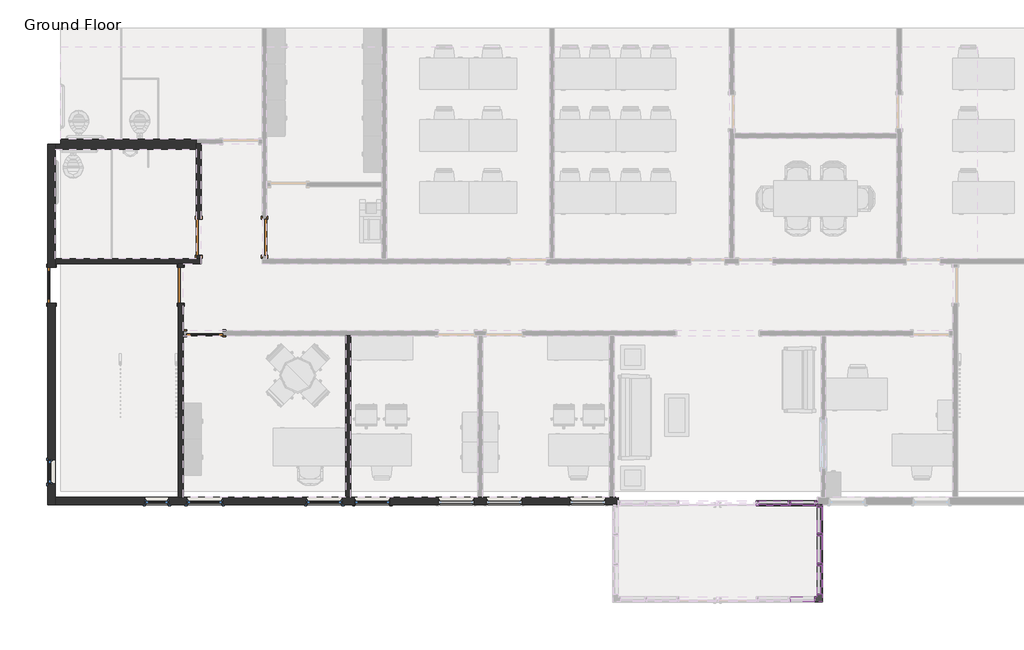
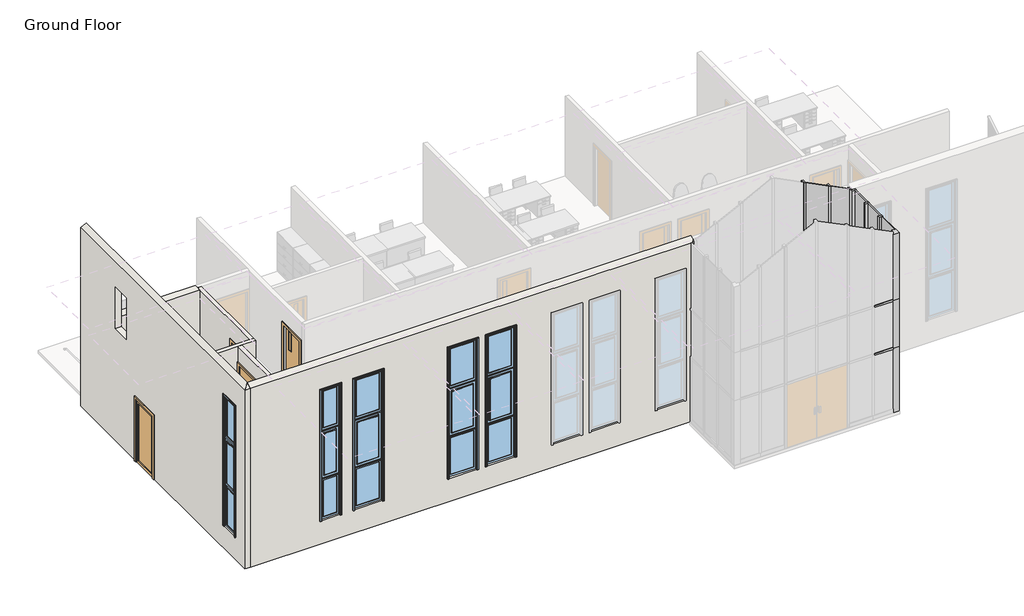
# One storey, part 2 of 5: 36 members, 15 plates, 7 walls, 5 doors, 5 windows.
"""IFC4 building model written with IfcOpenShell, lengths in millimetres."""

from ifc_helpers import new_model, si_unit, frame, origin, place, context, project, spatial, polyline, outline, extrude, faceted_brep, transform, mapped, element, save
from components import door_0f3f7c0c, door_8f6ecfa2, door_2a3d4b99, door_2264a989, door_30311ba1, member_5840e612, member_1de6f154, member_07888544, member_4f1c84db, member_2ee2964b, member_c7c5a8a0, member_a43dcf29, member_eba58f5c, member_efd07658, member_b4c2ac5f, member_301edf08, member_3fbb5cd5, member_73a57e35, member_249e519d, member_cd2e279d, member_1aadb8e3, member_1526e78e, member_869738d0, member_f8dc38bf, member_798d6cad, member_3a7f528f, member_10cd6abd, member_1bc8ff6f, member_892852e1, member_0208a0fb, system_panel_0d1f19e3, system_panel_731fbf32, system_panel_system_panel_82d31de2, system_panel_system_panel_aed4df24, system_panel_system_panel_0f80bde9, system_panel_system_panel_0a04209b, system_panel_system_panel_237256c1, system_panel_system_panel_f8c05b70, system_panel_system_panel_3b0a3080, system_panel_system_panel_e46ad46d, system_panel_system_panel_25a6b319, system_panel_system_panel_5840f3b9, system_panel_system_panel_c9e3cbe4, system_panel_system_panel_14be3267, system_panel_system_panel_e406a2c2, window_8adb934c, window_fc414b9c

model = new_model("IFC4")

# Units and contexts
model_context = context("Model", 3, world=origin())
ifc_project = project(units=[si_unit("LENGTHUNIT", "METRE", prefix="MILLI")], contexts=[model_context])

# Site, building, storey
site = spatial("IfcSite", under=ifc_project)
building = spatial("IfcBuilding", under=site)
storey = spatial("IfcBuildingStorey", under=building, Name="Ground Floor", Elevation=39624.0)

# Doors
placement = place(None, origin())
door_shape = door_0f3f7c0c(model_context)
element("IfcDoor", 1, ObjectType="Single-Flush : 36\" x 80\"", at=placement, inside=storey, context=model_context, shape_type="MappedRepresentation", body=[
    mapped(door_shape, transform((-21988.4917336, -9250.4394844, 39624.0), x_axis=(0.0, -1.0, 0.0), y_axis=(1.0, 0.0, 0.0), z_axis=(0.0, 0.0, 1.0))),
])
door_2_shape = door_8f6ecfa2(model_context)
element("IfcDoor", 2, ObjectType="Single-Flush Vision : 36\" x 80\"", at=placement, inside=storey, context=model_context, shape_type="MappedRepresentation", body=[
    mapped(door_2_shape, transform((-20312.0917336, -9250.4394844, 39624.0), x_axis=(0.0, -1.0, 0.0), y_axis=(1.0, 0.0, 0.0), z_axis=(0.0, 0.0, 1.0))),
])
door_3_shape = door_2a3d4b99(model_context)
element("IfcDoor", 3, ObjectType="Single-Flush Vision : 36\" x 84\"", at=placement, inside=storey, context=model_context, shape_type="MappedRepresentation", body=[
    mapped(door_3_shape, transform((-22445.6917336, -10469.6394844, 39624.0), x_axis=(0.0, 1.0, 0.0), y_axis=(-1.0, 0.0, 0.0), z_axis=(0.0, 0.0, 1.0))),
])
door_4_shape = door_2264a989(model_context)
element("IfcDoor", 4, ObjectType="Single-Glass 1 : 36\" x 84\"", at=placement, inside=storey, context=model_context, shape_type="MappedRepresentation", body=[
    mapped(door_4_shape, transform((-25736.5792336, -10469.6394844, 39624.0), x_axis=(0.0, 1.0, 0.0), y_axis=(-1.0, 0.0, 0.0), z_axis=(0.0, 0.0, 1.0))),
])
door_5_shape = door_30311ba1(model_context)
element("IfcDoor", 5, ObjectType="Single-Glass 1 : 36\" x 84\"", at=placement, inside=storey, context=model_context, shape_type="MappedRepresentation", body=[
    mapped(door_5_shape, transform((-21836.0917336, -11688.8394844, 39624.0), x_axis=(-1.0, 0.0, 0.0), y_axis=(0.0, -1.0, 0.0), z_axis=(0.0, 0.0, 1.0))),
])

# Members
member_shape = member_5840e612(model_context)
element("IfcMember", 6, ObjectType="L Corner Mullion : 5\" x 5\" Corner", at=placement, inside=storey, context=model_context, shape_type="MappedRepresentation", body=[
    mapped(member_shape, transform((-6181.7542336, -18456.3519844, 45720.0), x_axis=(1.0, 0.0, 0.0), y_axis=(0.0, 1.0, 0.0), z_axis=(0.0, 0.0, 1.0))),
])
member_2_shape = member_1de6f154(model_context)
element("IfcMember", 7, ObjectType="L Corner Mullion : 5\" x 5\" Corner", at=placement, inside=storey, context=model_context, shape_type="MappedRepresentation", body=[
    mapped(member_2_shape, transform((-6181.7542336, -18456.3519844, 41821.1), x_axis=(1.0, 0.0, 0.0), y_axis=(0.0, 1.0, 0.0), z_axis=(0.0, 0.0, 1.0))),
])
member_3_shape = member_07888544(model_context)
element("IfcMember", 8, ObjectType="L Corner Mullion : 5\" x 5\" Corner", at=placement, inside=storey, context=model_context, shape_type="MappedRepresentation", body=[
    mapped(member_3_shape, transform((-6181.7542336, -18456.3519844, 43459.4), x_axis=(1.0, 0.0, 0.0), y_axis=(0.0, 1.0, 0.0), z_axis=(0.0, 0.0, 1.0))),
])
member_4_shape = member_4f1c84db(model_context)
element("IfcMember", 9, ObjectType="Rectangular Mullion : 2.5\" x 5\" rectangular", at=placement, inside=storey, context=model_context, shape_type="MappedRepresentation", body=[
    mapped(member_4_shape, transform((-6181.7542336, -16811.7019844, 39751.0), x_axis=(0.0, -1.0, 0.0), y_axis=(-1.0, 0.0, 0.0), z_axis=(0.0, 0.0, -1.0))),
])
element("IfcMember", 10, ObjectType="Rectangular Mullion : 2.5\" x 5\" rectangular", at=placement, inside=storey, context=model_context, shape_type="MappedRepresentation", body=[
    mapped(member_4_shape, transform((-6181.7542336, -17573.7019844, 39751.0), x_axis=(0.0, -1.0, 0.0), y_axis=(-1.0, 0.0, 0.0), z_axis=(0.0, 0.0, -1.0))),
])
member_5_shape = member_2ee2964b(model_context)
element("IfcMember", 11, ObjectType="Rectangular Mullion : 2.5\" x 5\" rectangular", at=placement, inside=storey, context=model_context, shape_type="MappedRepresentation", body=[
    mapped(member_5_shape, transform((-6181.7542336, -16779.9519844, 41821.1), x_axis=(0.0, 0.0, 1.0), y_axis=(-1.0, 0.0, 0.0), z_axis=(0.0, -1.0, 0.0))),
])
element("IfcMember", 12, ObjectType="Rectangular Mullion : 2.5\" x 5\" rectangular", at=placement, inside=storey, context=model_context, shape_type="MappedRepresentation", body=[
    mapped(member_5_shape, transform((-6181.7542336, -16779.9519844, 43459.4), x_axis=(0.0, 0.0, 1.0), y_axis=(-1.0, 0.0, 0.0), z_axis=(0.0, -1.0, 0.0))),
])
member_6_shape = member_c7c5a8a0(model_context)
element("IfcMember", 13, ObjectType="Rectangular Mullion : 2.5\" x 5\" rectangular", at=placement, inside=storey, context=model_context, shape_type="MappedRepresentation", body=[
    mapped(member_6_shape, transform((-6181.7542336, -17541.9519844, 41821.1), x_axis=(0.0, 0.0, 1.0), y_axis=(-1.0, 0.0, 0.0), z_axis=(0.0, -1.0, 0.0))),
])
element("IfcMember", 14, ObjectType="Rectangular Mullion : 2.5\" x 5\" rectangular", at=placement, inside=storey, context=model_context, shape_type="MappedRepresentation", body=[
    mapped(member_6_shape, transform((-6181.7542336, -17541.9519844, 43459.4), x_axis=(0.0, 0.0, 1.0), y_axis=(-1.0, 0.0, 0.0), z_axis=(0.0, -1.0, 0.0))),
])
member_7_shape = member_a43dcf29(model_context)
element("IfcMember", 15, ObjectType="Rectangular Mullion : 2.5\" x 5\" rectangular", at=placement, inside=storey, context=model_context, shape_type="MappedRepresentation", body=[
    mapped(member_7_shape, transform((-6181.7542336, -18329.3519844, 41821.1), x_axis=(0.0, 0.0, 1.0), y_axis=(-1.0, 0.0, 0.0), z_axis=(0.0, -1.0, 0.0))),
])
element("IfcMember", 16, ObjectType="Rectangular Mullion : 2.5\" x 5\" rectangular", at=placement, inside=storey, context=model_context, shape_type="MappedRepresentation", body=[
    mapped(member_7_shape, transform((-6181.7542336, -18329.3519844, 43459.4), x_axis=(0.0, 0.0, 1.0), y_axis=(-1.0, 0.0, 0.0), z_axis=(0.0, -1.0, 0.0))),
])
member_8_shape = member_eba58f5c(model_context)
element("IfcMember", 17, ObjectType="Rectangular Mullion : 2.5\" x 5\" rectangular", at=placement, inside=storey, context=model_context, shape_type="MappedRepresentation", body=[
    mapped(member_8_shape, transform((-6181.7542336, -16811.7019844, 41821.1), x_axis=(0.0, -1.0, 0.0), y_axis=(-1.0, 0.0, 0.0), z_axis=(0.0, 0.0, -1.0))),
])
element("IfcMember", 18, ObjectType="Rectangular Mullion : 2.5\" x 5\" rectangular", at=placement, inside=storey, context=model_context, shape_type="MappedRepresentation", body=[
    mapped(member_8_shape, transform((-6181.7542336, -17573.7019844, 41821.1), x_axis=(0.0, -1.0, 0.0), y_axis=(-1.0, 0.0, 0.0), z_axis=(0.0, 0.0, -1.0))),
])
member_9_shape = member_efd07658(model_context)
element("IfcMember", 19, ObjectType="Rectangular Mullion : 2.5\" x 5\" rectangular", at=placement, inside=storey, context=model_context, shape_type="MappedRepresentation", body=[
    mapped(member_9_shape, transform((-6181.7542336, -16811.7019844, 43459.4), x_axis=(0.0, -1.0, 0.0), y_axis=(-1.0, 0.0, 0.0), z_axis=(0.0, 0.0, -1.0))),
])
element("IfcMember", 20, ObjectType="Rectangular Mullion : 2.5\" x 5\" rectangular", at=placement, inside=storey, context=model_context, shape_type="MappedRepresentation", body=[
    mapped(member_9_shape, transform((-6181.7542336, -17573.7019844, 43459.4), x_axis=(0.0, -1.0, 0.0), y_axis=(-1.0, 0.0, 0.0), z_axis=(0.0, 0.0, -1.0))),
])
member_10_shape = member_b4c2ac5f(model_context)
element("IfcMember", 21, ObjectType="Rectangular Mullion : 2.5\" x 5\" rectangular", at=placement, inside=storey, context=model_context, shape_type="MappedRepresentation", body=[
    mapped(member_10_shape, transform((-6956.4542336, -16017.9519844, 43453.05), x_axis=(-1.0, 0.0, 0.0), y_axis=(0.0, 1.0, 0.0), z_axis=(0.0, 0.0, -1.0))),
])
member_11_shape = member_301edf08(model_context)
element("IfcMember", 22, ObjectType="Rectangular Mullion : 2.5\" x 5\" rectangular", at=placement, inside=storey, context=model_context, shape_type="MappedRepresentation", body=[
    mapped(member_11_shape, transform((-7769.2542336, -16017.9519844, 43453.05), x_axis=(-1.0, 0.0, 0.0), y_axis=(0.0, 1.0, 0.0), z_axis=(0.0, 0.0, -1.0))),
])
member_12_shape = member_3fbb5cd5(model_context)
element("IfcMember", 23, ObjectType="Rectangular Mullion : 2.5\" x 5\" rectangular", at=placement, inside=storey, context=model_context, shape_type="MappedRepresentation", body=[
    mapped(member_12_shape, transform((-6245.2542336, -16017.9519844, 45751.75), x_axis=(1.0, 0.0, 0.0), y_axis=(0.0, 1.0, 0.0), z_axis=(0.0, 0.0, 1.0))),
])
member_13_shape = member_73a57e35(model_context)
element("IfcMember", 24, ObjectType="Rectangular Mullion : 2.5\" x 5\" rectangular", at=placement, inside=storey, context=model_context, shape_type="MappedRepresentation", body=[
    mapped(member_13_shape, transform((-6245.2542336, -16017.9519844, 41821.1), x_axis=(1.0, 0.0, 0.0), y_axis=(0.0, 1.0, 0.0), z_axis=(0.0, 0.0, 1.0))),
])
element("IfcMember", 25, ObjectType="Rectangular Mullion : 2.5\" x 5\" rectangular", at=placement, inside=storey, context=model_context, shape_type="MappedRepresentation", body=[
    mapped(member_13_shape, transform((-6181.7542336, -16049.7019844, 41821.1), x_axis=(0.0, 1.0, 0.0), y_axis=(-1.0, 0.0, 0.0), z_axis=(0.0, 0.0, 1.0))),
])
member_14_shape = member_249e519d(model_context)
element("IfcMember", 26, ObjectType="Rectangular Mullion : 2.5\" x 5\" rectangular", at=placement, inside=storey, context=model_context, shape_type="MappedRepresentation", body=[
    mapped(member_14_shape, transform((-6245.2542336, -16017.9519844, 43453.05), x_axis=(1.0, 0.0, 0.0), y_axis=(0.0, 1.0, 0.0), z_axis=(0.0, 0.0, 1.0))),
])
member_15_shape = member_cd2e279d(model_context)
element("IfcMember", 27, ObjectType="Rectangular Mullion : 2.5\" x 5\" rectangular", at=placement, inside=storey, context=model_context, shape_type="MappedRepresentation", body=[
    mapped(member_15_shape, transform((-6181.7542336, -16049.7019844, 45720.0), x_axis=(0.0, 1.0, 0.0), y_axis=(-1.0, 0.0, 0.0), z_axis=(0.0, 0.0, 1.0))),
])
member_16_shape = member_1aadb8e3(model_context)
element("IfcMember", 28, ObjectType="Rectangular Mullion : 2.5\" x 5\" rectangular", at=placement, inside=storey, context=model_context, shape_type="MappedRepresentation", body=[
    mapped(member_16_shape, transform((-6181.7542336, -16049.7019844, 43459.4), x_axis=(0.0, 1.0, 0.0), y_axis=(-1.0, 0.0, 0.0), z_axis=(0.0, 0.0, 1.0))),
])
member_17_shape = member_1526e78e(model_context)
element("IfcMember", 29, ObjectType="Rectangular Mullion : 2.5\" x 5\" rectangular", at=placement, inside=storey, context=model_context, shape_type="MappedRepresentation", body=[
    mapped(member_17_shape, transform((-7769.2542336, -16017.9519844, 39624.0), x_axis=(-1.0, 0.0, 0.0), y_axis=(0.0, 1.0, 0.0), z_axis=(0.0, 0.0, -1.0))),
])
element("IfcMember", 30, ObjectType="Rectangular Mullion : 2.5\" x 5\" rectangular", at=placement, inside=storey, context=model_context, shape_type="MappedRepresentation", body=[
    mapped(member_17_shape, transform((-6956.4542336, -16017.9519844, 39624.0), x_axis=(-1.0, 0.0, 0.0), y_axis=(0.0, 1.0, 0.0), z_axis=(0.0, 0.0, -1.0))),
])
member_18_shape = member_869738d0(model_context)
element("IfcMember", 31, ObjectType="Rectangular Mullion : 2.5\" x 5\" rectangular", at=placement, inside=storey, context=model_context, shape_type="MappedRepresentation", body=[
    mapped(member_18_shape, transform((-7769.2542336, -16017.9519844, 41821.1), x_axis=(-1.0, 0.0, 0.0), y_axis=(0.0, 1.0, 0.0), z_axis=(0.0, 0.0, -1.0))),
])
element("IfcMember", 32, ObjectType="Rectangular Mullion : 2.5\" x 5\" rectangular", at=placement, inside=storey, context=model_context, shape_type="MappedRepresentation", body=[
    mapped(member_18_shape, transform((-6956.4542336, -16017.9519844, 41821.1), x_axis=(-1.0, 0.0, 0.0), y_axis=(0.0, 1.0, 0.0), z_axis=(0.0, 0.0, -1.0))),
])
member_19_shape = member_f8dc38bf(model_context)
element("IfcMember", 33, ObjectType="Rectangular Mullion : 2.5\" x 5\" rectangular", at=placement, inside=storey, context=model_context, shape_type="MappedRepresentation", body=[
    mapped(member_19_shape, transform((-6924.7042336, -16017.9519844, 41821.1), x_axis=(0.0, 0.0, 1.0), y_axis=(0.0, 1.0, 0.0), z_axis=(-1.0, 0.0, 0.0))),
])
element("IfcMember", 34, ObjectType="Rectangular Mullion : 2.5\" x 5\" rectangular", at=placement, inside=storey, context=model_context, shape_type="MappedRepresentation", body=[
    mapped(member_19_shape, transform((-6924.7042336, -18456.3519844, 41821.1), x_axis=(0.0, 0.0, 1.0), y_axis=(0.0, 1.0, 0.0), z_axis=(-1.0, 0.0, 0.0))),
])
element("IfcMember", 35, ObjectType="Rectangular Mullion : 2.5\" x 5\" rectangular", at=placement, inside=storey, context=model_context, shape_type="MappedRepresentation", body=[
    mapped(member_19_shape, transform((-6924.7042336, -18456.3519844, 43459.4), x_axis=(0.0, 0.0, 1.0), y_axis=(0.0, 1.0, 0.0), z_axis=(-1.0, 0.0, 0.0))),
])
member_20_shape = member_798d6cad(model_context)
element("IfcMember", 36, ObjectType="Rectangular Mullion : 2.5\" x 5\" rectangular", at=placement, inside=storey, context=model_context, shape_type="MappedRepresentation", body=[
    mapped(member_20_shape, transform((-7737.5042336, -16017.9519844, 41821.1), x_axis=(0.0, 0.0, 1.0), y_axis=(0.0, 1.0, 0.0), z_axis=(-1.0, 0.0, 0.0))),
])
member_21_shape = member_3a7f528f(model_context)
element("IfcMember", 37, ObjectType="Rectangular Mullion : 5\" x 5\" Rectangular", at=placement, inside=storey, context=model_context, shape_type="MappedRepresentation", body=[
    mapped(member_21_shape, transform((-6988.2042336, -16017.9519844, 39624.0), x_axis=(0.0, 0.0, -1.0), y_axis=(0.0, 1.0, 0.0), z_axis=(1.0, 0.0, 0.0))),
])
member_22_shape = member_10cd6abd(model_context)
element("IfcMember", 38, ObjectType="Rectangular Mullion : 5\" x 5\" Rectangular", at=placement, inside=storey, context=model_context, shape_type="MappedRepresentation", body=[
    mapped(member_22_shape, transform((-6308.7542336, -16017.9519844, 39624.0), x_axis=(0.0, 0.0, -1.0), y_axis=(0.0, 1.0, 0.0), z_axis=(1.0, 0.0, 0.0))),
])
member_23_shape = member_1bc8ff6f(model_context)
element("IfcMember", 39, ObjectType="Rectangular Mullion : 5\" x 5\" Rectangular", at=placement, inside=storey, context=model_context, shape_type="MappedRepresentation", body=[
    mapped(member_23_shape, transform((-6181.7542336, -16113.2019844, 39624.0), x_axis=(0.0, 0.0, -1.0), y_axis=(-1.0, 0.0, 0.0), z_axis=(0.0, 1.0, 0.0))),
])
member_24_shape = member_892852e1(model_context)
element("IfcMember", 40, ObjectType="Rectangular Mullion : 5\" x 5\" Rectangular", at=placement, inside=storey, context=model_context, shape_type="MappedRepresentation", body=[
    mapped(member_24_shape, transform((-6181.7542336, -16811.7019844, 39624.0), x_axis=(0.0, 0.0, -1.0), y_axis=(-1.0, 0.0, 0.0), z_axis=(0.0, 1.0, 0.0))),
])
member_25_shape = member_0208a0fb(model_context)
element("IfcMember", 41, ObjectType="Rectangular Mullion : 5\" x 5\" Rectangular", at=placement, inside=storey, context=model_context, shape_type="MappedRepresentation", body=[
    mapped(member_25_shape, transform((-6181.7542336, -17573.7019844, 39624.0), x_axis=(0.0, 0.0, -1.0), y_axis=(-1.0, 0.0, 0.0), z_axis=(0.0, 1.0, 0.0))),
])

# Plates
system_panel_shape = system_panel_0d1f19e3(model_context)
element("IfcPlate", 42, ObjectType="System Panel : Spandral Panel", at=placement, inside=storey, context=model_context, shape_type="MappedRepresentation", body=[
    mapped(system_panel_shape, transform((-6616.7292336, -16017.9519844, 41852.85), x_axis=(-1.0, 0.0, 0.0), y_axis=(0.0, -1.0, 0.0), z_axis=(0.0, 0.0, 1.0))),
])
system_panel_2_shape = system_panel_731fbf32(model_context)
element("IfcPlate", 43, ObjectType="System Panel : Spandral Panel", at=placement, inside=storey, context=model_context, shape_type="MappedRepresentation", body=[
    mapped(system_panel_2_shape, transform((-7362.8542336, -16017.9519844, 41852.85), x_axis=(-1.0, 0.0, 0.0), y_axis=(0.0, -1.0, 0.0), z_axis=(0.0, 0.0, 1.0))),
])
system_panel_system_panel_shape = system_panel_system_panel_82d31de2(model_context)
element("IfcPlate", 44, ObjectType="System Panel : System Panel", at=placement, inside=storey, context=model_context, shape_type="MappedRepresentation", body=[
    mapped(system_panel_system_panel_shape, transform((-6181.7542336, -16446.5769844, 39751.0), x_axis=(0.0, -1.0, 0.0), y_axis=(1.0, 0.0, 0.0), z_axis=(0.0, 0.0, 1.0))),
])
system_panel_system_panel_2_shape = system_panel_system_panel_aed4df24(model_context)
element("IfcPlate", 45, ObjectType="System Panel : System Panel", at=placement, inside=storey, context=model_context, shape_type="MappedRepresentation", body=[
    mapped(system_panel_system_panel_2_shape, transform((-6181.7542336, -17192.7019844, 39751.0), x_axis=(0.0, -1.0, 0.0), y_axis=(1.0, 0.0, 0.0), z_axis=(0.0, 0.0, 1.0))),
])
system_panel_system_panel_3_shape = system_panel_system_panel_0f80bde9(model_context)
element("IfcPlate", 46, ObjectType="System Panel : System Panel", at=placement, inside=storey, context=model_context, shape_type="MappedRepresentation", body=[
    mapped(system_panel_system_panel_3_shape, transform((-6181.7542336, -17967.4019844, 39751.0), x_axis=(0.0, -1.0, 0.0), y_axis=(1.0, 0.0, 0.0), z_axis=(0.0, 0.0, 1.0))),
])
system_panel_system_panel_4_shape = system_panel_system_panel_0a04209b(model_context)
element("IfcPlate", 47, ObjectType="System Panel : System Panel", at=placement, inside=storey, context=model_context, shape_type="MappedRepresentation", body=[
    mapped(system_panel_system_panel_4_shape, transform((-6181.7542336, -16446.5769844, 41852.85), x_axis=(0.0, -1.0, 0.0), y_axis=(1.0, 0.0, 0.0), z_axis=(0.0, 0.0, 1.0))),
])
system_panel_system_panel_5_shape = system_panel_system_panel_237256c1(model_context)
element("IfcPlate", 48, ObjectType="System Panel : System Panel", at=placement, inside=storey, context=model_context, shape_type="MappedRepresentation", body=[
    mapped(system_panel_system_panel_5_shape, transform((-6181.7542336, -16446.5769844, 43491.15), x_axis=(0.0, -1.0, 0.0), y_axis=(1.0, 0.0, 0.0), z_axis=(0.0, 0.0, 1.0))),
])
system_panel_system_panel_6_shape = system_panel_system_panel_f8c05b70(model_context)
element("IfcPlate", 49, ObjectType="System Panel : System Panel", at=placement, inside=storey, context=model_context, shape_type="MappedRepresentation", body=[
    mapped(system_panel_system_panel_6_shape, transform((-6181.7542336, -17192.7019844, 41852.85), x_axis=(0.0, -1.0, 0.0), y_axis=(1.0, 0.0, 0.0), z_axis=(0.0, 0.0, 1.0))),
])
system_panel_system_panel_7_shape = system_panel_system_panel_3b0a3080(model_context)
element("IfcPlate", 50, ObjectType="System Panel : System Panel", at=placement, inside=storey, context=model_context, shape_type="MappedRepresentation", body=[
    mapped(system_panel_system_panel_7_shape, transform((-6181.7542336, -17192.7019844, 43491.15), x_axis=(0.0, -1.0, 0.0), y_axis=(1.0, 0.0, 0.0), z_axis=(0.0, 0.0, 1.0))),
])
system_panel_system_panel_8_shape = system_panel_system_panel_e46ad46d(model_context)
element("IfcPlate", 51, ObjectType="System Panel : System Panel", at=placement, inside=storey, context=model_context, shape_type="MappedRepresentation", body=[
    mapped(system_panel_system_panel_8_shape, transform((-6181.7542336, -17967.4019844, 41852.85), x_axis=(0.0, -1.0, 0.0), y_axis=(1.0, 0.0, 0.0), z_axis=(0.0, 0.0, 1.0))),
])
system_panel_system_panel_9_shape = system_panel_system_panel_25a6b319(model_context)
element("IfcPlate", 52, ObjectType="System Panel : System Panel", at=placement, inside=storey, context=model_context, shape_type="MappedRepresentation", body=[
    mapped(system_panel_system_panel_9_shape, transform((-6181.7542336, -17967.4019844, 43491.15), x_axis=(0.0, -1.0, 0.0), y_axis=(1.0, 0.0, 0.0), z_axis=(0.0, 0.0, 1.0))),
])
system_panel_system_panel_10_shape = system_panel_system_panel_5840f3b9(model_context)
element("IfcPlate", 53, ObjectType="System Panel : System Panel", at=placement, inside=storey, context=model_context, shape_type="MappedRepresentation", body=[
    mapped(system_panel_system_panel_10_shape, transform((-7346.9792336, -16017.9519844, 43453.05), x_axis=(-1.0, 0.0, 0.0), y_axis=(0.0, -1.0, 0.0), z_axis=(0.0, 0.0, 1.0))),
])
system_panel_system_panel_11_shape = system_panel_system_panel_c9e3cbe4(model_context)
element("IfcPlate", 54, ObjectType="System Panel : System Panel", at=placement, inside=storey, context=model_context, shape_type="MappedRepresentation", body=[
    mapped(system_panel_system_panel_11_shape, transform((-6616.7292336, -16017.9519844, 43453.05), x_axis=(-1.0, 0.0, 0.0), y_axis=(0.0, -1.0, 0.0), z_axis=(0.0, 0.0, 1.0))),
])
system_panel_system_panel_12_shape = system_panel_system_panel_14be3267(model_context)
element("IfcPlate", 55, ObjectType="System Panel : System Panel", at=placement, inside=storey, context=model_context, shape_type="MappedRepresentation", body=[
    mapped(system_panel_system_panel_12_shape, transform((-6616.7292336, -16017.9519844, 39751.0), x_axis=(-1.0, 0.0, 0.0), y_axis=(0.0, -1.0, 0.0), z_axis=(0.0, 0.0, 1.0))),
])
system_panel_system_panel_13_shape = system_panel_system_panel_e406a2c2(model_context)
element("IfcPlate", 56, ObjectType="System Panel : System Panel", at=placement, inside=storey, context=model_context, shape_type="MappedRepresentation", body=[
    mapped(system_panel_system_panel_13_shape, transform((-7362.8542336, -16017.9519844, 39751.0), x_axis=(-1.0, 0.0, 0.0), y_axis=(0.0, -1.0, 0.0), z_axis=(0.0, 0.0, 1.0))),
])

# Walls
element("IfcWall", 57, ObjectType="Exterior - Siding", at=placement, inside=storey, context=model_context, shape_type="Brep", body=[
    faceted_brep([(-25642.9167336, -16049.7019844, 45720.0), (-25642.9167336, -16049.7019844, 39624.0), (-25642.9167336, -15862.3769844, 39624.0), (-25642.9167336, -10926.8394844, 39624.0), (-25642.9167336, -10926.8394844, 41757.6), (-25642.9167336, -10012.4394844, 41757.6), (-25642.9167336, -10012.4394844, 39624.0), (-25642.9167336, -9921.9519844, 39624.0), (-25642.9167336, -9798.1269844, 39624.0), (-25642.9167336, -7007.3019844, 39624.0), (-25642.9167336, -6877.1269844, 39624.0), (-25642.9167336, -6877.1269844, 42348.15), (-25642.9167336, -7007.3019844, 42348.15), (-25642.9167336, -9798.1269844, 42348.15), (-25642.9167336, -9921.9519844, 42348.15), (-25642.9167336, -12204.7769844, 42348.15), (-25642.9167336, -12204.7769844, 42672.0), (-25642.9167336, -9921.9519844, 42672.0), (-25642.9167336, -9798.1269844, 42672.0), (-25642.9167336, -7007.3019844, 42672.0), (-25642.9167336, -6877.1269844, 42672.0), (-25642.9167336, -6877.1269844, 45813.6625), (-25642.9167336, -15862.3769844, 45813.6625), (-25642.9167336, -14911.4644844, 44869.1), (-25642.9167336, -14911.4644844, 40405.05), (-25642.9167336, -15521.0644844, 40405.05), (-25642.9167336, -15521.0644844, 44869.1), (-25642.9167336, -8815.4644844, 44869.1), (-25642.9167336, -8815.4644844, 43453.05), (-25642.9167336, -9425.0644844, 43453.05), (-25642.9167336, -9425.0644844, 44869.1), (-25830.2417336, -16049.7019844, 45720.0), (-25830.2417336, -6877.1269844, 45720.0), (-25830.2417336, -6877.1269844, 42672.0), (-25830.2417336, -6877.1269844, 39624.0), (-25830.2417336, -10012.4394844, 39624.0), (-25830.2417336, -10012.4394844, 41757.6), (-25830.2417336, -10926.8394844, 41757.6), (-25830.2417336, -10926.8394844, 39624.0), (-25830.2417336, -16049.7019844, 39624.0), (-25830.2417336, -14911.4644844, 40405.05), (-25830.2417336, -14911.4644844, 44869.1), (-25830.2417336, -15521.0644844, 44869.1), (-25830.2417336, -15521.0644844, 40405.05), (-25830.2417336, -8815.4644844, 43453.05), (-25830.2417336, -8815.4644844, 44869.1), (-25830.2417336, -9425.0644844, 44869.1), (-25830.2417336, -9425.0644844, 43453.05), (-25798.4917336, -6877.1269844, 42672.0), (-25798.4917336, -6877.1269844, 42348.15), (-25798.4917336, -12204.7769844, 42348.15), (-25798.4917336, -12204.7769844, 42672.0)], [[[0, 1, 2, 3, 4, 5, 6, 7, 8, 9, 10, 11, 12, 13, 14, 15, 16, 17, 18, 19, 20, 21, 22], [23, 24, 25, 26], [27, 28, 29, 30]], [[31, 32, 33, 34, 35, 36, 37, 38, 39], [40, 41, 42, 43], [44, 45, 46, 47]], [[34, 10, 9, 8, 7, 6, 35]], [[1, 39, 38, 3, 2]], [[1, 0, 31, 39]], [[10, 34, 33, 32, 21, 20, 48, 49, 11]], [[31, 0, 22]], [[32, 31, 22, 21]], [[24, 23, 41, 40]], [[25, 24, 40, 43]], [[26, 25, 43, 42]], [[23, 26, 42, 41]], [[36, 35, 6, 5]], [[37, 36, 5, 4]], [[38, 37, 4, 3]], [[28, 27, 45, 44]], [[29, 28, 44, 47]], [[30, 29, 47, 46]], [[27, 30, 46, 45]], [[49, 50, 15, 14, 13, 12, 11]], [[51, 48, 20, 19, 18, 17, 16]], [[50, 51, 16, 15]], [[50, 49, 48, 51]]]),
])
element("IfcWall", 58, ObjectType="Exterior - Siding", at=placement, inside=storey, context=model_context, shape_type="Brep", body=[
    faceted_brep([(-11315.7292336, -15862.3769844, 39624.0), (-11410.9792336, -15862.3769844, 39624.0), (-11534.8042336, -15862.3769844, 39624.0), (-14763.7792336, -15862.3769844, 39624.0), (-14887.6042336, -15862.3769844, 39624.0), (-18116.5792336, -15862.3769844, 39624.0), (-18240.4042336, -15862.3769844, 39624.0), (-22383.7792336, -15862.3769844, 39624.0), (-22507.6042336, -15862.3769844, 39624.0), (-25642.9167336, -15862.3769844, 39624.0), (-25642.9167336, -15862.3769844, 45813.6625), (-11315.7292336, -15862.3769844, 45813.6625), (-11315.7292336, -15862.3769844, 42672.0), (-11410.9792336, -15862.3769844, 42672.0), (-11534.8042336, -15862.3769844, 42672.0), (-11625.2917336, -15862.3769844, 42672.0), (-11625.2917336, -15862.3769844, 44869.1), (-12539.6917336, -15862.3769844, 44869.1), (-12539.6917336, -15862.3769844, 42672.0), (-13758.8917336, -15862.3769844, 42672.0), (-13758.8917336, -15862.3769844, 44869.1), (-14673.2917336, -15862.3769844, 44869.1), (-14673.2917336, -15862.3769844, 42672.0), (-14695.5167336, -15862.3769844, 42672.0), (-14955.8667336, -15862.3769844, 42672.0), (-14978.0917336, -15862.3769844, 42672.0), (-14978.0917336, -15862.3769844, 44869.1), (-15892.4917336, -15862.3769844, 44869.1), (-15892.4917336, -15862.3769844, 42672.0), (-17111.6917336, -15862.3769844, 42672.0), (-17111.6917336, -15862.3769844, 44869.1), (-18026.0917336, -15862.3769844, 44869.1), (-18026.0917336, -15862.3769844, 42672.0), (-18330.8917336, -15862.3769844, 42672.0), (-18330.8917336, -15862.3769844, 44869.1), (-19245.2917336, -15862.3769844, 44869.1), (-19245.2917336, -15862.3769844, 42672.0), (-21378.8917336, -15862.3769844, 42672.0), (-21378.8917336, -15862.3769844, 44869.1), (-22293.2917336, -15862.3769844, 44869.1), (-22293.2917336, -15862.3769844, 42672.0), (-22383.7792336, -15862.3769844, 42672.0), (-22507.6042336, -15862.3769844, 42672.0), (-22507.6042336, -15862.3769844, 42348.15), (-22383.7792336, -15862.3769844, 42348.15), (-22293.2917336, -15862.3769844, 42348.15), (-22293.2917336, -15862.3769844, 40405.05), (-21378.8917336, -15862.3769844, 40405.05), (-21378.8917336, -15862.3769844, 42348.15), (-19245.2917336, -15862.3769844, 42348.15), (-19245.2917336, -15862.3769844, 40405.05), (-18330.8917336, -15862.3769844, 40405.05), (-18330.8917336, -15862.3769844, 42348.15), (-18240.4042336, -15862.3769844, 42348.15), (-18116.5792336, -15862.3769844, 42348.15), (-18026.0917336, -15862.3769844, 42348.15), (-18026.0917336, -15862.3769844, 40405.05), (-17111.6917336, -15862.3769844, 40405.05), (-17111.6917336, -15862.3769844, 42348.15), (-15892.4917336, -15862.3769844, 42348.15), (-15892.4917336, -15862.3769844, 40405.05), (-14978.0917336, -15862.3769844, 40405.05), (-14978.0917336, -15862.3769844, 42348.15), (-14887.6042336, -15862.3769844, 42348.15), (-14763.7792336, -15862.3769844, 42348.15), (-14673.2917336, -15862.3769844, 42348.15), (-14673.2917336, -15862.3769844, 40405.05), (-13758.8917336, -15862.3769844, 40405.05), (-13758.8917336, -15862.3769844, 42348.15), (-12539.6917336, -15862.3769844, 42348.15), (-12539.6917336, -15862.3769844, 40405.05), (-11625.2917336, -15862.3769844, 40405.05), (-11625.2917336, -15862.3769844, 42348.15), (-11534.8042336, -15862.3769844, 42348.15), (-11410.9792336, -15862.3769844, 42348.15), (-11315.7292336, -15862.3769844, 42348.15), (-23360.0917336, -15862.3769844, 44869.1), (-23360.0917336, -15862.3769844, 40405.05), (-22750.4917336, -15862.3769844, 40405.05), (-22750.4917336, -15862.3769844, 44869.1), (-25642.9167336, -16049.7019844, 39624.0), (-11315.7292336, -16049.7019844, 39624.0), (-11315.7292336, -16049.7019844, 45751.75), (-11379.2292336, -16049.7019844, 45720.0), (-25642.9167336, -16049.7019844, 45720.0), (-23360.0917336, -16049.7019844, 40405.05), (-23360.0917336, -16049.7019844, 44869.1), (-22750.4917336, -16049.7019844, 44869.1), (-22750.4917336, -16049.7019844, 40405.05), (-22293.2917336, -16049.7019844, 40405.05), (-22293.2917336, -16049.7019844, 44869.1), (-21378.8917336, -16049.7019844, 44869.1), (-21378.8917336, -16049.7019844, 40405.05), (-19245.2917336, -16049.7019844, 40405.05), (-19245.2917336, -16049.7019844, 44869.1), (-18330.8917336, -16049.7019844, 44869.1), (-18330.8917336, -16049.7019844, 40405.05), (-15892.4917336, -16049.7019844, 40405.05), (-15892.4917336, -16049.7019844, 44869.1), (-14978.0917336, -16049.7019844, 44869.1), (-14978.0917336, -16049.7019844, 40405.05), (-12539.6917336, -16049.7019844, 40405.05), (-12539.6917336, -16049.7019844, 44869.1), (-11625.2917336, -16049.7019844, 44869.1), (-11625.2917336, -16049.7019844, 40405.05), (-18026.0917336, -16049.7019844, 40405.05), (-18026.0917336, -16049.7019844, 44869.1), (-17111.6917336, -16049.7019844, 44869.1), (-17111.6917336, -16049.7019844, 40405.05), (-14673.2917336, -16049.7019844, 40405.05), (-14673.2917336, -16049.7019844, 44869.1), (-13758.8917336, -16049.7019844, 44869.1), (-13758.8917336, -16049.7019844, 40405.05), (-11315.7292336, -16017.9519844, 42348.15), (-11315.7292336, -16017.9519844, 42672.0), (-11315.7292336, -15986.2019844, 45751.75), (-22293.2917336, -16017.9519844, 42348.15), (-22293.2917336, -16017.9519844, 42672.0), (-21378.8917336, -16017.9519844, 42672.0), (-21378.8917336, -16017.9519844, 42348.15), (-19245.2917336, -16017.9519844, 42348.15), (-19245.2917336, -16017.9519844, 42672.0), (-18330.8917336, -16017.9519844, 42672.0), (-18330.8917336, -16017.9519844, 42348.15), (-15892.4917336, -16017.9519844, 42348.15), (-15892.4917336, -16017.9519844, 42672.0), (-14978.0917336, -16017.9519844, 42672.0), (-14978.0917336, -16017.9519844, 42348.15), (-12539.6917336, -16017.9519844, 42348.15), (-12539.6917336, -16017.9519844, 42672.0), (-11625.2917336, -16017.9519844, 42672.0), (-11625.2917336, -16017.9519844, 42348.15), (-18026.0917336, -16017.9519844, 42348.15), (-18026.0917336, -16017.9519844, 42672.0), (-17111.6917336, -16017.9519844, 42672.0), (-17111.6917336, -16017.9519844, 42348.15), (-14673.2917336, -16017.9519844, 42348.15), (-14673.2917336, -16017.9519844, 42672.0), (-13758.8917336, -16017.9519844, 42672.0), (-13758.8917336, -16017.9519844, 42348.15), (-22507.6042336, -16017.9519844, 42348.15), (-22507.6042336, -16017.9519844, 42672.0)], [[[0, 1, 2, 3, 4, 5, 6, 7, 8, 9, 10, 11, 12, 13, 14, 15, 16, 17, 18, 19, 20, 21, 22, 23, 24, 25, 26, 27, 28, 29, 30, 31, 32, 33, 34, 35, 36, 37, 38, 39, 40, 41, 42, 43, 44, 45, 46, 47, 48, 49, 50, 51, 52, 53, 54, 55, 56, 57, 58, 59, 60, 61, 62, 63, 64, 65, 66, 67, 68, 69, 70, 71, 72, 73, 74, 75], [76, 77, 78, 79]], [[80, 81, 82, 83, 84], [85, 86, 87, 88], [89, 90, 91, 92], [93, 94, 95, 96], [97, 98, 99, 100], [101, 102, 103, 104], [105, 106, 107, 108], [109, 110, 111, 112]], [[9, 8, 7, 6, 5, 4, 3, 2, 1, 0, 81, 80]], [[82, 81, 0, 75, 113, 114, 12, 11, 115]], [[10, 9, 80, 84]], [[11, 10, 84, 83, 115]], [[83, 82, 115]], [[77, 76, 86, 85]], [[78, 77, 85, 88]], [[79, 78, 88, 87]], [[76, 79, 87, 86]], [[90, 89, 46, 45, 116, 117, 40, 39]], [[47, 46, 89, 92]], [[92, 91, 38, 37, 118, 119, 48, 47]], [[39, 38, 91, 90]], [[94, 93, 50, 49, 120, 121, 36, 35]], [[51, 50, 93, 96]], [[96, 95, 34, 33, 122, 123, 52, 51]], [[35, 34, 95, 94]], [[98, 97, 60, 59, 124, 125, 28, 27]], [[61, 60, 97, 100]], [[100, 99, 26, 25, 126, 127, 62, 61]], [[27, 26, 99, 98]], [[102, 101, 70, 69, 128, 129, 18, 17]], [[71, 70, 101, 104]], [[104, 103, 16, 15, 130, 131, 72, 71]], [[17, 16, 103, 102]], [[106, 105, 56, 55, 132, 133, 32, 31]], [[57, 56, 105, 108]], [[108, 107, 30, 29, 134, 135, 58, 57]], [[31, 30, 107, 106]], [[110, 109, 66, 65, 136, 137, 22, 21]], [[67, 66, 109, 112]], [[112, 111, 20, 19, 138, 139, 68, 67]], [[21, 20, 111, 110]], [[43, 140, 116, 45, 44]], [[119, 120, 49, 48]], [[131, 113, 75, 74, 73, 72]], [[123, 132, 55, 54, 53, 52]], [[135, 124, 59, 58]], [[127, 136, 65, 64, 63, 62]], [[139, 128, 69, 68]], [[117, 141, 42, 41, 40]], [[121, 118, 37, 36]], [[114, 130, 15, 14, 13, 12]], [[133, 122, 33, 32]], [[125, 134, 29, 28]], [[137, 126, 25, 24, 23, 22]], [[129, 138, 19, 18]], [[140, 141, 117, 116]], [[120, 119, 118, 121]], [[113, 131, 130, 114]], [[132, 123, 122, 133]], [[124, 135, 134, 125]], [[136, 127, 126, 137]], [[128, 139, 138, 129]], [[141, 140, 43, 42]]]),
])
element("IfcWall", 59, ObjectType="Interior - 4 7/8\" Partition (1-hr)", at=placement, inside=storey, context=model_context, shape_type="Brep", body=[
    faceted_brep([(-25642.9167336, -9921.9519844, 39624.0), (-22507.6042336, -9921.9519844, 39624.0), (-22383.7792336, -9921.9519844, 39624.0), (-21926.5792336, -9921.9519844, 39624.0), (-21926.5792336, -9921.9519844, 42348.15), (-22383.7792336, -9921.9519844, 42348.15), (-22507.6042336, -9921.9519844, 42348.15), (-25642.9167336, -9921.9519844, 42348.15), (-25642.9167336, -9798.1269844, 39624.0), (-25642.9167336, -9798.1269844, 42348.15), (-22050.4042336, -9798.1269844, 42348.15), (-21926.5792336, -9798.1269844, 42348.15), (-21926.5792336, -9798.1269844, 39624.0), (-22050.4042336, -9798.1269844, 39624.0)], [[[0, 1, 2, 3, 4, 5, 6, 7]], [[8, 9, 10, 11, 12, 13]], [[3, 2, 1, 0, 8, 13, 12]], [[0, 7, 9, 8]], [[4, 3, 12, 11]], [[7, 6, 5, 4, 11, 10, 9]]]),
])
element("IfcWall", 60, ObjectType="Interior - 4 7/8\" Partition (1-hr)", at=placement, inside=storey, context=model_context, shape_type="Brep", body=[
    faceted_brep([(-22383.7792336, -10012.4394844, 41757.6), (-22383.7792336, -10012.4394844, 39624.0), (-22383.7792336, -9921.9519844, 39624.0), (-22383.7792336, -9921.9519844, 42348.15), (-22383.7792336, -11626.9269844, 42348.15), (-22383.7792336, -11750.7519844, 42348.15), (-22383.7792336, -15862.3769844, 42348.15), (-22383.7792336, -15862.3769844, 39624.0), (-22383.7792336, -11750.7519844, 39624.0), (-22383.7792336, -11626.9269844, 39624.0), (-22383.7792336, -10926.8394844, 39624.0), (-22383.7792336, -10926.8394844, 41757.6), (-22507.6042336, -9921.9519844, 39624.0), (-22507.6042336, -10012.4394844, 39624.0), (-22507.6042336, -10012.4394844, 41757.6), (-22507.6042336, -10926.8394844, 41757.6), (-22507.6042336, -10926.8394844, 39624.0), (-22507.6042336, -15862.3769844, 39624.0), (-22507.6042336, -15862.3769844, 42348.15), (-22507.6042336, -12204.7769844, 42348.15), (-22507.6042336, -9921.9519844, 42348.15)], [[[0, 1, 2, 3, 4, 5, 6, 7, 8, 9, 10, 11]], [[12, 13, 14, 15, 16, 17, 18, 19, 20]], [[2, 1, 13, 12]], [[10, 9, 8, 7, 17, 16]], [[7, 6, 18, 17]], [[3, 2, 12, 20]], [[6, 5, 4, 3, 20, 19, 18]], [[14, 13, 1, 0]], [[15, 14, 0, 11]], [[16, 15, 11, 10]]]),
])
element("IfcWall", 61, ObjectType="Interior - 4 7/8\" Partition (1-hr)", at=placement, inside=storey, context=model_context, shape_type="SweptSolid", body=[
    extrude(outline(polyline([(-18116.5792336, -11750.7519844), (-18116.5792336, -15862.3769844), (-18240.4042336, -15862.3769844), (-18240.4042336, -11750.7519844), (-18116.5792336, -11750.7519844)])), frame((0.0, 0.0, 39624.0), z_axis=(0.0, 0.0, 1.0), x_axis=(1.0, 0.0, 0.0)), (0.0, 0.0, 1.0), 2724.15),
])
element("IfcWall", 62, ObjectType="Interior - 4 7/8\" Partition (1-hr)", at=placement, inside=storey, context=model_context, shape_type="Brep", body=[
    faceted_brep([(-22050.4042336, -9707.6394844, 41656.0), (-22050.4042336, -9707.6394844, 39624.0), (-22050.4042336, -9798.1269844, 39624.0), (-22050.4042336, -9798.1269844, 42348.15), (-22050.4042336, -7007.3019844, 42348.15), (-22050.4042336, -6870.7769844, 42348.15), (-22050.4042336, -6870.7769844, 39624.0), (-22050.4042336, -7007.3019844, 39624.0), (-22050.4042336, -8793.2394844, 39624.0), (-22050.4042336, -8793.2394844, 41656.0), (-21926.5792336, -9798.1269844, 39624.0), (-21926.5792336, -9707.6394844, 39624.0), (-21926.5792336, -9707.6394844, 41656.0), (-21926.5792336, -8793.2394844, 41656.0), (-21926.5792336, -8793.2394844, 39624.0), (-21926.5792336, -6870.7769844, 39624.0), (-21926.5792336, -6870.7769844, 42348.15), (-21926.5792336, -9798.1269844, 42348.15)], [[[0, 1, 2, 3, 4, 5, 6, 7, 8, 9]], [[10, 11, 12, 13, 14, 15, 16, 17]], [[2, 1, 11, 10]], [[8, 7, 6, 15, 14]], [[3, 2, 10, 17]], [[6, 5, 16, 15]], [[5, 4, 3, 17, 16]], [[12, 11, 1, 0]], [[13, 12, 0, 9]], [[14, 13, 9, 8]]]),
])
element("IfcWall", 63, ObjectType="Interior - Plumbing Chase", at=placement, inside=storey, context=model_context, shape_type="Brep", body=[
    faceted_brep([(-25642.9167336, -7007.3019844, 39624.0), (-22050.4042336, -7007.3019844, 39624.0), (-22050.4042336, -7007.3019844, 42348.15), (-25642.9167336, -7007.3019844, 42348.15), (-25493.6917336, -6746.9519844, 39624.0), (-25493.6917336, -6746.9519844, 42348.15), (-22050.4042336, -6746.9519844, 42348.15), (-22050.4042336, -6746.9519844, 39624.0), (-25642.9167336, -6877.1269844, 39624.0), (-25493.6917336, -6877.1269844, 39624.0), (-22050.4042336, -6870.7769844, 39624.0), (-22050.4042336, -6870.7769844, 42348.15), (-25642.9167336, -6877.1269844, 42348.15), (-25493.6917336, -6877.1269844, 42348.15)], [[[0, 1, 2, 3]], [[4, 5, 6, 7]], [[1, 0, 8, 9, 4, 7, 10]], [[2, 1, 10, 7, 6, 11]], [[0, 3, 12, 8]], [[12, 13, 9, 8]], [[13, 5, 4, 9]], [[3, 2, 11, 6, 5, 13, 12]]]),
])

# Windows
window_shape = window_8adb934c(model_context)
element("IfcWindow", 64, ObjectType="Window : 24\" W", at=placement, inside=storey, context=model_context, shape_type="MappedRepresentation", body=[
    mapped(window_shape, transform((-23055.2917336, -15956.0394844, 39624.0), x_axis=(-1.0, 0.0, 0.0), y_axis=(0.0, -1.0, 0.0), z_axis=(0.0, 0.0, 1.0))),
])
element("IfcWindow", 65, ObjectType="Window : 24\" W", at=placement, inside=storey, context=model_context, shape_type="MappedRepresentation", body=[
    mapped(window_shape, transform((-25736.5792336, -15216.2644844, 39624.0), x_axis=(0.0, 1.0, 0.0), y_axis=(-1.0, 0.0, 0.0), z_axis=(0.0, 0.0, 1.0))),
])
window_2_shape = window_fc414b9c(model_context)
element("IfcWindow", 66, ObjectType="Window : 36\" W", at=placement, inside=storey, context=model_context, shape_type="MappedRepresentation", body=[
    mapped(window_2_shape, transform((-21836.0917336, -15956.0394844, 39624.0), x_axis=(-1.0, 0.0, 0.0), y_axis=(0.0, -1.0, 0.0), z_axis=(0.0, 0.0, 1.0))),
])
element("IfcWindow", 67, ObjectType="Window : 36\" W", at=placement, inside=storey, context=model_context, shape_type="MappedRepresentation", body=[
    mapped(window_2_shape, transform((-18788.0917336, -15956.0394844, 39624.0), x_axis=(-1.0, 0.0, 0.0), y_axis=(0.0, -1.0, 0.0), z_axis=(0.0, 0.0, 1.0))),
])
element("IfcWindow", 68, ObjectType="Window : 36\" W", at=placement, inside=storey, context=model_context, shape_type="MappedRepresentation", body=[
    mapped(window_2_shape, transform((-17568.8917336, -15956.0394844, 39624.0), x_axis=(-1.0, 0.0, 0.0), y_axis=(0.0, -1.0, 0.0), z_axis=(0.0, 0.0, 1.0))),
])

save(model, "model.ifc")
